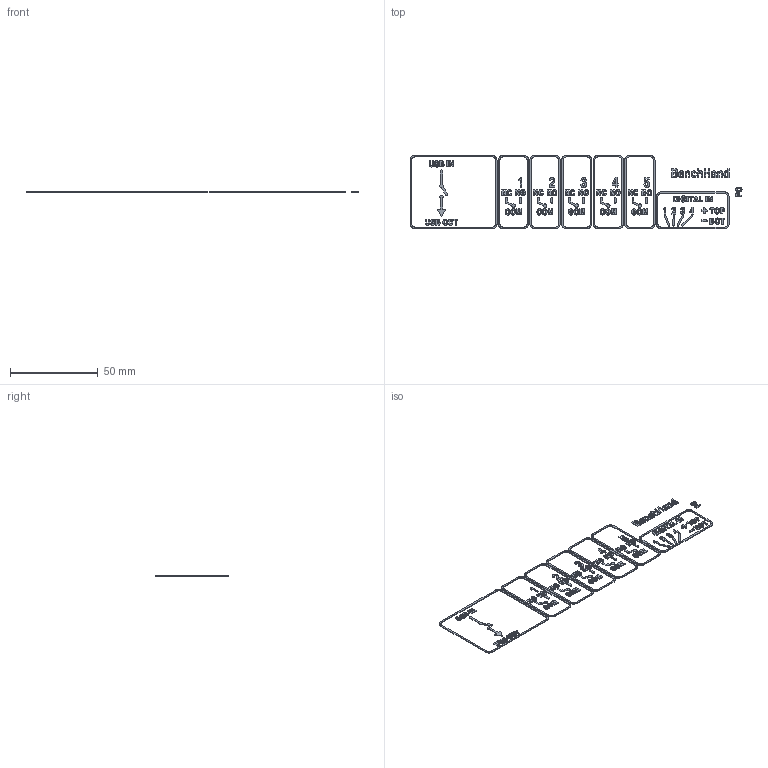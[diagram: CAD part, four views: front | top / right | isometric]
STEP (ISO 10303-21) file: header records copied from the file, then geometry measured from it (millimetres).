
FILE_DESCRIPTION(('Open CASCADE Model'),'2;1');
FILE_NAME('Open CASCADE Shape Model','2026-11-14T14:57:02',('Author'),( 'Open CASCADE'),'Open CASCADE STEP processor 7.9','Open CASCADE 7.9' ,'Unknown');
FILE_SCHEMA(('AUTOMOTIVE_DESIGN { 1 0 10303 214 1 1 1 1 }'));
Length unit declared in the file: millimetre
Products named in the file (107): Open CASCADE STEP translator 7.9 4; Open CASCADE STEP translator 7.9 4.1; Open CASCADE STEP translator 7.9 4.2; Open CASCADE STEP translator 7.9 4.3; Open CASCADE STEP translator 7.9 4.4; Open CASCADE STEP translator 7.9 4.5; Open CASCADE STEP translator 7.9 4.6; Open CASCADE STEP translator 7.9 4.7; Open CASCADE STEP translator 7.9 4.8; Open CASCADE STEP translator 7.9 4.9; Open CASCADE STEP translator 7.9 4.10; Open CASCADE STEP translator 7.9 4.11; Open CASCADE STEP translator 7.9 4.12; Open CASCADE STEP translator 7.9 4.13; Open CASCADE STEP translator 7.9 4.14; Open CASCADE STEP translator 7.9 4.15; Open CASCADE STEP translator 7.9 4.16; Open CASCADE STEP translator 7.9 4.17; Open CASCADE STEP translator 7.9 4.18; Open CASCADE STEP translator 7.9 4.19; Open CASCADE STEP translator 7.9 4.20; Open CASCADE STEP translator 7.9 4.21; Open CASCADE STEP translator 7.9 4.22; Open CASCADE STEP translator 7.9 4.23; Open CASCADE STEP translator 7.9 4.24; Open CASCADE STEP translator 7.9 4.25; Open CASCADE STEP translator 7.9 4.26; Open CASCADE STEP translator 7.9 4.27; Open CASCADE STEP translator 7.9 4.28; Open CASCADE STEP translator 7.9 4.29; Open CASCADE STEP translator 7.9 4.30; Open CASCADE STEP translator 7.9 4.31; Open CASCADE STEP translator 7.9 4.32; Open CASCADE STEP translator 7.9 4.33; Open CASCADE STEP translator 7.9 4.34; Open CASCADE STEP translator 7.9 4.35; Open CASCADE STEP translator 7.9 4.36; Open CASCADE STEP translator 7.9 4.37; Open CASCADE STEP translator 7.9 4.38; Open CASCADE STEP translator 7.9 4.39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
Assembly tree (106 placements, depth 2):
  Open CASCADE STEP translator 7.9 4
    Open CASCADE STEP translator 7.9 4.1
    Open CASCADE STEP translator 7.9 4.2
    Open CASCADE STEP translator 7.9 4.3
    Open CASCADE STEP translator 7.9 4.4
    Open CASCADE STEP translator 7.9 4.5
    Open CASCADE STEP translator 7.9 4.6
    Open CASCADE STEP translator 7.9 4.7
    Open CASCADE STEP translator 7.9 4.8
    Open CASCADE STEP translator 7.9 4.9
    Open CASCADE STEP translator 7.9 4.10
    Open CASCADE STEP translator 7.9 4.11
    Open CASCADE STEP translator 7.9 4.12
    Open CASCADE STEP translator 7.9 4.13
    Open CASCADE STEP translator 7.9 4.14
    Open CASCADE STEP translator 7.9 4.15
    Open CASCADE STEP translator 7.9 4.16
    Open CASCADE STEP translator 7.9 4.17
    Open CASCADE STEP translator 7.9 4.18
    Open CASCADE STEP translator 7.9 4.19
    Open CASCADE STEP translator 7.9 4.20
    Open CASCADE STEP translator 7.9 4.21
    Open CASCADE STEP translator 7.9 4.22
    Open CASCADE STEP translator 7.9 4.23
    Open CASCADE STEP translator 7.9 4.24
    Open CASCADE STEP translator 7.9 4.25
    Open CASCADE STEP translator 7.9 4.26
    Open CASCADE STEP translator 7.9 4.27
    Open CASCADE STEP translator 7.9 4.28
    Open CASCADE STEP translator 7.9 4.29
    Open CASCADE STEP translator 7.9 4.30
    Open CASCADE STEP translator 7.9 4.31
    Open CASCADE STEP translator 7.9 4.32
    Open CASCADE STEP translator 7.9 4.33
    Open CASCADE STEP translator 7.9 4.34
    Open CASCADE STEP translator 7.9 4.35
    Open CASCADE STEP translator 7.9 4.36
    Open CASCADE STEP translator 7.9 4.37
    Open CASCADE STEP translator 7.9 4.38
    Open CASCADE STEP translator 7.9 4.39
    Open CASCADE STEP translator 7.9 4.40
    Open CASCADE STEP translator 7.9 4.41
    Open CASCADE STEP translator 7.9 4.42
    Open CASCADE STEP translator 7.9 4.43
    Open CASCADE STEP translator 7.9 4.44
    Open CASCADE STEP translator 7.9 4.45
    Open CASCADE STEP translator 7.9 4.46
    Open CASCADE STEP translator 7.9 4.47
    Open CASCADE STEP translator 7.9 4.48
    Open CASCADE STEP translator 7.9 4.49
    Open CASCADE STEP translator 7.9 4.50
    Open CASCADE STEP translator 7.9 4.51
    Open CASCADE STEP translator 7.9 4.52
    Open CASCADE STEP translator 7.9 4.53
    Open CASCADE STEP translator 7.9 4.54
    Open CASCADE STEP translator 7.9 4.55
    Open CASCADE STEP translator 7.9 4.56
    Open CASCADE STEP translator 7.9 4.57
    Open CASCADE STEP translator 7.9 4.58
    Open CASCADE STEP translator 7.9 4.59
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Bounding box: 189.15 x 41.85 x 0.4 mm (x, y, z)
Volume: 560.7 mm3; surface area: 4113.8 mm2
Topology: 106 solids, 106 shells, 2130 faces, 5754 edges, 3836 vertices
Faces by surface type: bspline 2130
Entity records: 168049 total; most frequent: CARTESIAN_POINT 92567, B_SPLINE_CURVE_WITH_KNOTS 15386, ORIENTED_EDGE 11508, PCURVE 11508, DEFINITIONAL_REPRESENTATION 11508, EDGE_CURVE 5754, SURFACE_CURVE 5754, VERTEX_POINT 3836
